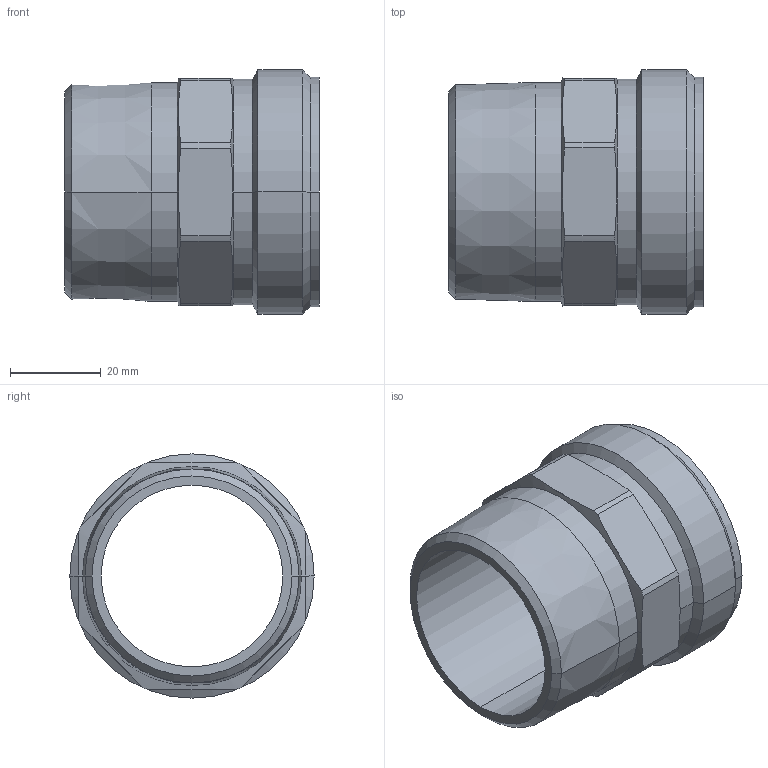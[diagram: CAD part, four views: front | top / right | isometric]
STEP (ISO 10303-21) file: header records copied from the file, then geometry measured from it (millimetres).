
FILE_DESCRIPTION((''),'2;1');
FILE_NAME('G:\BIR\Pajchrowski\projekty\8000 models\4376g\4376g STEP\14376_112-134.stp','2006-04-28T11:32:53',('pajchrowski'),(''),'Autodesk Inventor 8','Autodesk Inventor 8','');
FILE_SCHEMA(('AUTOMOTIVE_DESIGN { 1 0 10303 214 1 1 1 1 }'));
Length unit declared in the file: millimetre
Products named in the file (1): 14376_112-134
Bounding box: 56 x 53.75 x 53.75 mm (x, y, z)
Volume: 39744.2 mm3; surface area: 17578.3 mm2
Topology: 1 solids, 1 shells, 48 faces, 122 edges, 76 vertices
Faces by surface type: cylinder 18, plane 18, cone 12
Entity records: 1449 total; most frequent: CARTESIAN_POINT 299, DIRECTION 244, ORIENTED_EDGE 244, EDGE_CURVE 122, AXIS2_PLACEMENT_3D 99, VERTEX_POINT 76, CIRCLE 50, EDGE_LOOP 50
